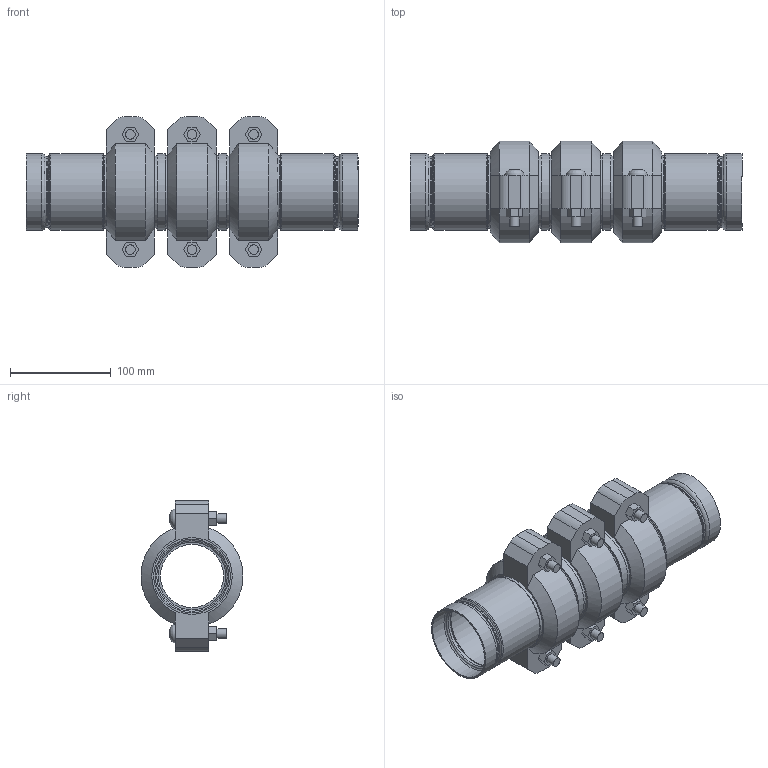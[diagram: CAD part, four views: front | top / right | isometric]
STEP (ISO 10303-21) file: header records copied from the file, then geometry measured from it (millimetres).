
FILE_DESCRIPTION(/* description */ ('VIC STRENGTHIN 100 EXPANSION JOINT 3 COUPLINGS EXPANDED STYLE E155 (ST1)','CAx-IF Rec.Pracs.---Representation and Presentation of Product Manufacturing Information (PMI)---4.0---2014-10-13'),/* implementation_level */ '2;1');
FILE_NAME(/* name */ 'C:\Users\Vjadhav\AppData\Roaming\Autodesk\ApplicationPlugins\Victaulic.Temp\A946\Victaulic_SS-StrengThin 100_Expansion Joint_Expanded_3 Couplings_Style E155 (ST1)_02.5 (76.1) (65).stp',/* time_stamp */ '2021-07-23T19:28:06+06:00',/* author */ ('kkamble'),/* organization */ ('Victaulic'),/* preprocessor_version */ 'ST-DEVELOPER v17.2',/* originating_system */ 'Autodesk Inventor 2019',/* authorisation */ '');
FILE_SCHEMA (('AP242_MANAGED_MODEL_BASED_3D_ENGINEERING_MIM_LF { 1 0 10303 442 1 1 4 }'));
Length unit declared in the file: inch
Products named in the file (4): E155-02.5 (76.1); E494G-02.5 (76.1); Nipple-02.5 (76.1); 075-02.5 (76.1)
Assembly tree (7 placements, depth 2):
  E155-02.5 (76.1)
    E494G-02.5 (76.1)  x2
    Nipple-02.5 (76.1)  x2
    075-02.5 (76.1)  x3
Bounding box: 329.95 x 101.25 x 149.86 mm (x, y, z)
Volume: 893865.7 mm3; surface area: 295751.8 mm2
Topology: 7 solids, 13 shells, 263 faces, 693 edges, 490 vertices
Faces by surface type: plane 132, cylinder 77, torus 32, cone 16, bspline 6
Full cylindrical faces by diameter (mm): 9.525 x12, 11.43 x6, 62.713 x2, 67.158 x2, 69.063 x2, 69.85 x3, 70.358 x2, 72.263 x6, 73 x6, 76.2 x18
Entity records: 3768 total; most frequent: CARTESIAN_POINT 685, DIRECTION 659, ORIENTED_EDGE 556, AXIS2_PLACEMENT_3D 279, EDGE_CURVE 278, VERTEX_POINT 199, CIRCLE 167, EDGE_LOOP 127
